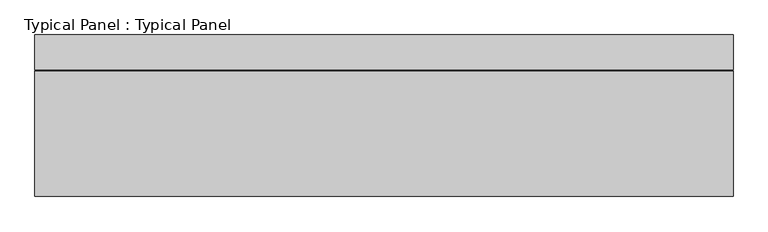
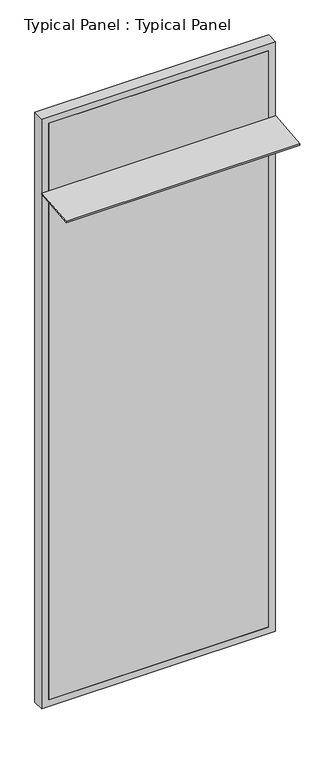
"""IFC4 building model written with IfcOpenShell, lengths in millimetres: plate geometry, Typical Panel : Typical Panel."""

from ifc_helpers import new_model, si_unit, frame, origin, place, context, project, spatial, polyline, outline, extrude, source, transform, mapped, element, save


def typical_panel_typical_panel_3d8b9d05(model_context):
    return source(origin(), model_context, "Body", "SweptSolid", [
        extrude(outline(polyline([(0.0, -269.9999999), (0.0, 0.0), (1500.0, 0.0), (1500.0, -269.9999999), (0.0, -269.9999999)])), frame((750.0, -272.4756271, 3461.832096), z_axis=(0.0, -0.10452846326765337, 0.9945218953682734), x_axis=(-1.0, 0.0, 0.0)), (0.0, 0.0, 1.0), 10.0),
        extrude(outline(polyline([(0.0, -750.0), (0.0, 750.0), (4000.0, 750.0), (4000.0, -750.0), (0.0, -750.0)]), holes=[polyline([(45.0, 705.0), (45.0, -705.0), (3955.0, -705.0), (3955.0, 705.0), (45.0, 705.0)])]), frame((0.0, -1.5797986, 0.0), z_axis=(0.0, 1.0, 0.0), x_axis=(0.0, 0.0, 1.0)), (0.0, 0.0, 1.0), 75.0),
        extrude(outline(polyline([(705.0, -1.5797986), (-705.0, -1.5797986), (-705.0, 13.4202014), (705.0, 13.4202014), (705.0, -1.5797986)])), frame((0.0, 0.0, 45.0), z_axis=(0.0, 0.0, 1.0), x_axis=(1.0, 0.0, 0.0)), (0.0, 0.0, 1.0), 3910.0),
    ])


if __name__ == "__main__":
    model = new_model("IFC4")
    model_context = context("Model", 3, world=origin())
    ifc_project = project(units=[si_unit("LENGTHUNIT", "METRE", prefix="MILLI")], contexts=[model_context])
    site = spatial("IfcSite", under=ifc_project)
    building = spatial("IfcBuilding", under=site)
    placement = place(None, origin())
    typical_panel_typical_panel_shape = typical_panel_typical_panel_3d8b9d05(model_context)
    element("IfcPlate", 1, ObjectType="Typical Panel : Typical Panel", at=placement, inside=building, context=model_context, shape_type="MappedRepresentation", body=[
        mapped(typical_panel_typical_panel_shape, transform((0.0, 0.0, 0.0), x_axis=(1.0, 0.0, 0.0), y_axis=(0.0, 1.0, 0.0), z_axis=(0.0, 0.0, 1.0))),
    ])
    save(model, "model.ifc")
